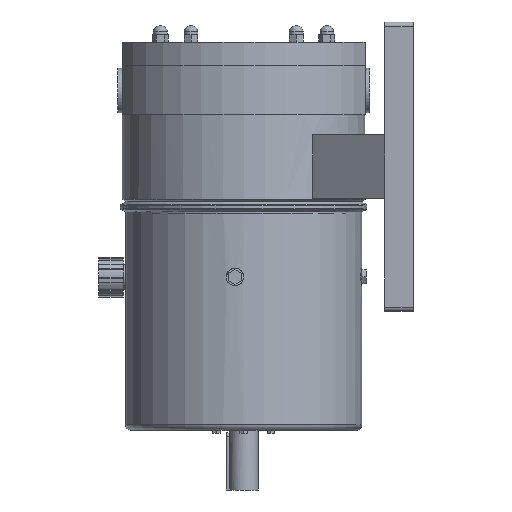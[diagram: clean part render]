
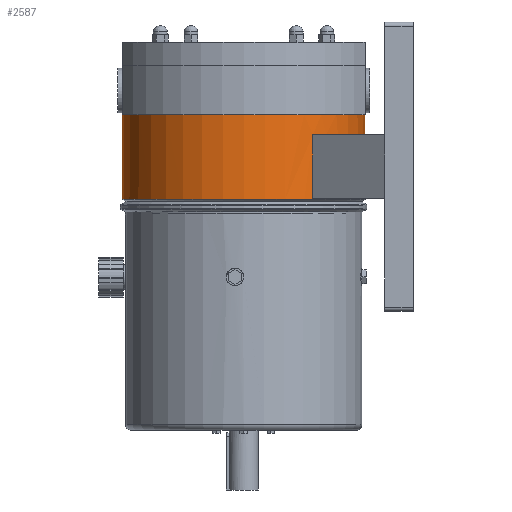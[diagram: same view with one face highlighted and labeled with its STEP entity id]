
A CAD part, left-side view. The second image highlights one B-rep face of the part: STEP entity #2587.
In plain terms, the highlighted cylindrical face has radius 210 mm (diameter 420 mm), a full revolution.
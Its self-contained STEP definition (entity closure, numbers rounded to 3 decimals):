
#1931=CARTESIAN_POINT('',(2.049,209.99,-125.1));
#1932=VERTEX_POINT('',#1931);
#1939=CARTESIAN_POINT('',(-2.049,209.99,-125.1));
#1940=VERTEX_POINT('',#1939);
#2022=CARTESIAN_POINT('',(0.0,0.0,-125.1));
#2023=DIRECTION('',(0.0,0.0,1.0));
#2024=DIRECTION('',(0.0,1.0,0.0));
#2025=AXIS2_PLACEMENT_3D('',#2022,#2023,#2024);
#2026=CIRCLE('',#2025,210.0);
#2027=EDGE_CURVE('',#1932,#1940,#2026,.T.);
#2117=CARTESIAN_POINT('',(-2.049,-209.99,-125.1));
#2118=VERTEX_POINT('',#2117);
#2119=CARTESIAN_POINT('',(2.049,-209.99,-125.1));
#2120=VERTEX_POINT('',#2119);
#2121=CARTESIAN_POINT('',(0.0,0.0,-125.1));
#2122=DIRECTION('',(0.0,0.0,1.0));
#2123=DIRECTION('',(0.0,1.0,0.0));
#2124=AXIS2_PLACEMENT_3D('',#2121,#2122,#2123);
#2125=CIRCLE('',#2124,210.0);
#2126=EDGE_CURVE('',#2118,#2120,#2125,.T.);
#2293=CARTESIAN_POINT('',(0.0,0.0,-125.1));
#2294=DIRECTION('',(0.0,0.0,1.0));
#2295=DIRECTION('',(0.0,1.0,0.0));
#2296=AXIS2_PLACEMENT_3D('',#2293,#2294,#2295);
#2297=CIRCLE('',#2296,210.0);
#2298=EDGE_CURVE('',#1940,#2118,#2297,.T.);
#2357=CARTESIAN_POINT('',(0.0,0.0,-125.1));
#2358=DIRECTION('',(0.0,0.0,1.0));
#2359=DIRECTION('',(0.0,1.0,0.0));
#2360=AXIS2_PLACEMENT_3D('',#2357,#2358,#2359);
#2361=CIRCLE('',#2360,210.0);
#2362=EDGE_CURVE('',#2120,#1932,#2361,.T.);
#2493=CARTESIAN_POINT('',(0.0,0.0,-198.293));
#2494=DIRECTION('',(0.0,0.0,-1.0));
#2495=DIRECTION('',(0.0,1.0,0.0));
#2496=AXIS2_PLACEMENT_3D('',#2493,#2494,#2495);
#2497=CYLINDRICAL_SURFACE('',#2496,210.0);
#2498=CARTESIAN_POINT('',(0.0,210.0,-271.486));
#2499=VERTEX_POINT('',#2498);
#2500=CARTESIAN_POINT('',(0.0,0.0,-271.486));
#2501=DIRECTION('',(0.0,0.0,-1.0));
#2502=DIRECTION('',(0.0,1.0,0.0));
#2503=AXIS2_PLACEMENT_3D('',#2500,#2501,#2502);
#2504=CIRCLE('',#2503,210.0);
#2505=EDGE_CURVE('',#2499,#2499,#2504,.T.);
#2506=ORIENTED_EDGE('',*,*,#2505,.F.);
#2507=EDGE_LOOP('',(#2506));
#2508=FACE_OUTER_BOUND('',#2507,.T.);
#2509=CARTESIAN_POINT('',(172.515,-119.744,-270.1));
#2510=VERTEX_POINT('',#2509);
#2511=CARTESIAN_POINT('',(108.55,-179.769,-270.1));
#2512=VERTEX_POINT('',#2511);
#2513=CARTESIAN_POINT('',(0.0,0.0,-270.1));
#2514=DIRECTION('',(0.0,0.0,-1.0));
#2515=DIRECTION('',(0.0,1.0,0.0));
#2516=AXIS2_PLACEMENT_3D('',#2513,#2514,#2515);
#2517=CIRCLE('',#2516,210.0);
#2518=EDGE_CURVE('',#2510,#2512,#2517,.T.);
#2519=ORIENTED_EDGE('',*,*,#2518,.T.);
#2520=CARTESIAN_POINT('',(108.55,-179.769,-160.1));
#2521=VERTEX_POINT('',#2520);
#2522=CARTESIAN_POINT('',(108.55,-179.769,-270.1));
#2523=DIRECTION('',(0.0,0.0,1.0));
#2524=VECTOR('',#2523,110.0);
#2525=LINE('',#2522,#2524);
#2526=EDGE_CURVE('',#2512,#2521,#2525,.T.);
#2527=ORIENTED_EDGE('',*,*,#2526,.T.);
#2528=CARTESIAN_POINT('',(172.515,-119.744,-160.1));
#2529=VERTEX_POINT('',#2528);
#2530=CARTESIAN_POINT('',(0.0,0.0,-160.1));
#2531=DIRECTION('',(0.0,0.0,1.0));
#2532=DIRECTION('',(0.0,1.0,0.0));
#2533=AXIS2_PLACEMENT_3D('',#2530,#2531,#2532);
#2534=CIRCLE('',#2533,210.0);
#2535=EDGE_CURVE('',#2521,#2529,#2534,.T.);
#2536=ORIENTED_EDGE('',*,*,#2535,.T.);
#2537=CARTESIAN_POINT('',(172.515,-119.744,-160.1));
#2538=DIRECTION('',(0.0,0.0,-1.0));
#2539=VECTOR('',#2538,110.0);
#2540=LINE('',#2537,#2539);
#2541=EDGE_CURVE('',#2529,#2510,#2540,.T.);
#2542=ORIENTED_EDGE('',*,*,#2541,.T.);
#2543=EDGE_LOOP('',(#2519,#2527,#2536,#2542));
#2544=FACE_BOUND('',#2543,.T.);
#2545=CARTESIAN_POINT('',(-108.55,-179.769,-270.1));
#2546=VERTEX_POINT('',#2545);
#2547=CARTESIAN_POINT('',(-172.515,-119.744,-270.1));
#2548=VERTEX_POINT('',#2547);
#2549=CARTESIAN_POINT('',(0.0,0.0,-270.1));
#2550=DIRECTION('',(0.0,0.0,-1.0));
#2551=DIRECTION('',(0.0,1.0,0.0));
#2552=AXIS2_PLACEMENT_3D('',#2549,#2550,#2551);
#2553=CIRCLE('',#2552,210.0);
#2554=EDGE_CURVE('',#2546,#2548,#2553,.T.);
#2555=ORIENTED_EDGE('',*,*,#2554,.T.);
#2556=CARTESIAN_POINT('',(-172.515,-119.744,-160.1));
#2557=VERTEX_POINT('',#2556);
#2558=CARTESIAN_POINT('',(-172.515,-119.744,-270.1));
#2559=DIRECTION('',(0.0,0.0,1.0));
#2560=VECTOR('',#2559,110.0);
#2561=LINE('',#2558,#2560);
#2562=EDGE_CURVE('',#2548,#2557,#2561,.T.);
#2563=ORIENTED_EDGE('',*,*,#2562,.T.);
#2564=CARTESIAN_POINT('',(-108.55,-179.769,-160.1));
#2565=VERTEX_POINT('',#2564);
#2566=CARTESIAN_POINT('',(0.0,0.0,-160.1));
#2567=DIRECTION('',(0.0,0.0,1.0));
#2568=DIRECTION('',(0.0,1.0,0.0));
#2569=AXIS2_PLACEMENT_3D('',#2566,#2567,#2568);
#2570=CIRCLE('',#2569,210.0);
#2571=EDGE_CURVE('',#2557,#2565,#2570,.T.);
#2572=ORIENTED_EDGE('',*,*,#2571,.T.);
#2573=CARTESIAN_POINT('',(-108.55,-179.769,-160.1));
#2574=DIRECTION('',(0.0,0.0,-1.0));
#2575=VECTOR('',#2574,110.0);
#2576=LINE('',#2573,#2575);
#2577=EDGE_CURVE('',#2565,#2546,#2576,.T.);
#2578=ORIENTED_EDGE('',*,*,#2577,.T.);
#2579=EDGE_LOOP('',(#2555,#2563,#2572,#2578));
#2580=FACE_BOUND('',#2579,.T.);
#2581=ORIENTED_EDGE('',*,*,#2027,.F.);
#2582=ORIENTED_EDGE('',*,*,#2362,.F.);
#2583=ORIENTED_EDGE('',*,*,#2126,.F.);
#2584=ORIENTED_EDGE('',*,*,#2298,.F.);
#2585=EDGE_LOOP('',(#2581,#2582,#2583,#2584));
#2586=FACE_BOUND('',#2585,.T.);
#2587=ADVANCED_FACE('',(#2508,#2544,#2580,#2586),#2497,.T.);
